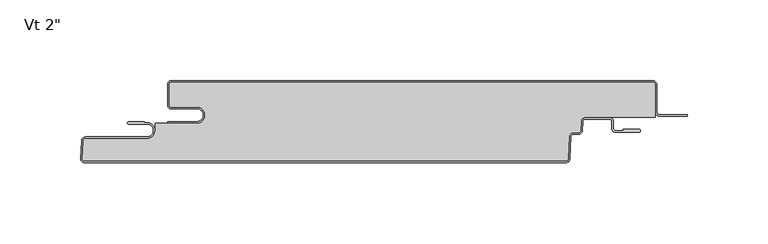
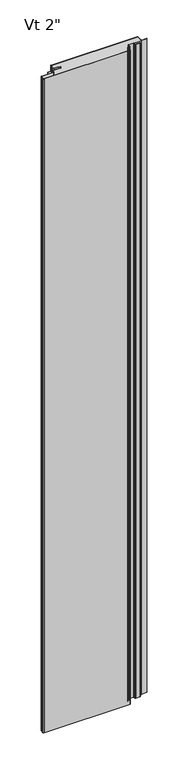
"""IFC4 building model written with IfcOpenShell, lengths in millimetres: plate geometry."""

import ifcopenshell
import ifcopenshell.guid

model = None  # the IFC model being written
_history = None  # IfcOwnerHistory: only IFC2X3 demands one
_inside = {}  # id of a spatial element -> (the spatial element, [elements in it])
_under = {}  # id of a project, library or spatial element -> (it, [spatial elements below it])
_declared = {}  # id of a project -> (the project, [libraries it declares])
_typed = {}  # id of a type object -> (the type object, [elements of that type])
_made_of = {}  # id of a material, layer set ... -> (it, [elements and type objects made of it])


def new_model(schema):
    """Start an empty IFC model of exactly this schema.

    Asked for "IFC4X3", IfcOpenShell would pick the latest addendum, in which some entities
    have other attributes; the version numbers below select the first issue.
    IFC2X3 requires an IfcOwnerHistory on every rooted entity: one is made here for all.
    """
    global model, _history
    if schema == "IFC4X3":
        model = ifcopenshell.file(schema_version=(4, 3, 0, 0))
    else:
        model = ifcopenshell.file(schema=schema)
    _inside.clear()
    _under.clear()
    _declared.clear()
    _typed.clear()
    _made_of.clear()
    _history = None
    if model.schema == "IFC2X3":
        org = make("IfcOrganization", Name="unknown")
        user = make(
            "IfcPersonAndOrganization",
            ThePerson=make("IfcPerson", FamilyName="unknown"),
            TheOrganization=org,
        )
        app = make(
            "IfcApplication",
            ApplicationDeveloper=org,
            Version="unknown",
            ApplicationFullName="unknown",
            ApplicationIdentifier="unknown",
        )
        _history = make(
            "IfcOwnerHistory",
            OwningUser=user,
            OwningApplication=app,
            ChangeAction="ADDED",
            CreationDate=0,
        )
    return model


def make(cls, **values):
    """One entity of the class cls with the attributes given. An attribute that is None is left unset."""
    return model.create_entity(
        cls, **{name: value for name, value in values.items() if value is not None}
    )


def rooted(cls, **values):
    """An entity with a GlobalId (a new one), such as an element, a storey or a relation."""
    return make(cls, GlobalId=ifcopenshell.guid.new(), OwnerHistory=_history, **values)


def si_unit(unit_type, name, prefix=None):
    """IfcSIUnit, for example si_unit("LENGTHUNIT", "METRE", prefix="MILLI")."""
    return make("IfcSIUnit", UnitType=unit_type, Prefix=prefix, Name=name)


def assignment(units):
    """IfcUnitAssignment: the units of a project."""
    return None if units is None else make("IfcUnitAssignment", Units=units)


def point(xyz):
    """IfcCartesianPoint."""
    return None if xyz is None else make("IfcCartesianPoint", Coordinates=xyz)


def direction(xyz):
    """IfcDirection."""
    return None if xyz is None else make("IfcDirection", DirectionRatios=xyz)


def frame(location, z_axis=None, x_axis=None):
    """IfcAxis2Placement3D, a coordinate frame: its origin and axes. An axis left out is left unset."""
    return make(
        "IfcAxis2Placement3D",
        Location=point(location),
        Axis=direction(z_axis),
        RefDirection=direction(x_axis),
    )


def frame_2d(location, x_axis=None):
    """IfcAxis2Placement2D, a coordinate frame in the plane: its origin and x axis."""
    return make(
        "IfcAxis2Placement2D", Location=point(location), RefDirection=direction(x_axis)
    )


def origin():
    """The frame at (0, 0, 0) with its axes left unset."""
    return frame((0.0, 0.0, 0.0))


def origin_with_axes():
    """The frame at (0, 0, 0) with the z axis (0, 0, 1) and the x axis (1, 0, 0) written out."""
    return frame((0.0, 0.0, 0.0), z_axis=(0.0, 0.0, 1.0), x_axis=(1.0, 0.0, 0.0))


def place(relative_to, where):
    """IfcLocalPlacement: puts the frame where relative to a parent placement (None: the world)."""
    return make(
        "IfcLocalPlacement", PlacementRelTo=relative_to, RelativePlacement=where
    )


def context(
    kind, dimensions, precision=None, world=None, true_north=None, identifier=None
):
    """IfcGeometricRepresentationContext, for example the 3D "Model" context."""
    return make(
        "IfcGeometricRepresentationContext",
        ContextIdentifier=identifier,
        ContextType=kind,
        CoordinateSpaceDimension=dimensions,
        Precision=precision,
        WorldCoordinateSystem=world,
        TrueNorth=true_north,
    )


def project(units=None, contexts=None):
    """IfcProject with its units and contexts."""
    return rooted(
        "IfcProject",
        Name="project",
        RepresentationContexts=contexts,
        UnitsInContext=assignment(units),
    )


def spatial(cls, under=None, at=None, **own):
    """A site, building, storey or space (cls), placed at a placement, below another one or the project."""
    s = rooted(cls, ObjectPlacement=at, **own)
    if under is not None:
        _under.setdefault(under.id(), (under, []))[1].append(s)
    return s


def polyline(points):
    """IfcPolyline through the points."""
    return make("IfcPolyline", Points=[point(p) for p in points])


def circle_curve(where, radius):
    """IfcCircle in the frame where."""
    return make("IfcCircle", Position=where, Radius=radius)


def ellipse_curve(where, semi_axis1, semi_axis2):
    """IfcEllipse in the frame where."""
    return make(
        "IfcEllipse", Position=where, SemiAxis1=semi_axis1, SemiAxis2=semi_axis2
    )


def trimmed(basis, trim1, trim2, sense, master):
    """IfcTrimmedCurve: the piece of a basis curve between two trims."""
    return make(
        "IfcTrimmedCurve",
        BasisCurve=basis,
        Trim1=trim1,
        Trim2=trim2,
        SenseAgreement=sense,
        MasterRepresentation=master,
    )


def segment(curve, same_sense, transition):
    """IfcCompositeCurveSegment."""
    return make(
        "IfcCompositeCurveSegment",
        Transition=transition,
        SameSense=same_sense,
        ParentCurve=curve,
    )


def composite_curve(segments, self_intersect=None):
    """IfcCompositeCurve: segments joined end to end."""
    return make("IfcCompositeCurve", Segments=segments, SelfIntersect=self_intersect)


def outline(outer, holes=None, kind="AREA"):
    """IfcArbitraryClosedProfileDef: a profile drawn as a closed curve; with holes, ...WithVoids."""
    if holes is None:
        return make("IfcArbitraryClosedProfileDef", ProfileType=kind, OuterCurve=outer)
    return make(
        "IfcArbitraryProfileDefWithVoids",
        ProfileType=kind,
        OuterCurve=outer,
        InnerCurves=holes,
    )


def extrude(swept, where, along, depth):
    """IfcExtrudedAreaSolid: the profile swept, set in the frame where, extruded along a direction by depth."""
    return make(
        "IfcExtrudedAreaSolid",
        SweptArea=swept,
        Position=where,
        ExtrudedDirection=direction(along),
        Depth=depth,
    )


def shape(context_of_items, identifier, shape_type, items):
    """IfcShapeRepresentation: the items that make up one representation, for example the "Body"."""
    return make(
        "IfcShapeRepresentation",
        ContextOfItems=context_of_items,
        RepresentationIdentifier=identifier,
        RepresentationType=shape_type,
        Items=items,
    )


def source(mapping_origin, context_of_items, identifier, shape_type, items):
    """IfcRepresentationMap: a shape defined once, which mapped items show again and again."""
    return make(
        "IfcRepresentationMap",
        MappingOrigin=mapping_origin,
        MappedRepresentation=shape(context_of_items, identifier, shape_type, items),
    )


def transform(
    local_origin,
    x_axis=None,
    y_axis=None,
    z_axis=None,
    scale=None,
    scale2=None,
    scale3=None,
    uniform=True,
):
    """IfcCartesianTransformationOperator3D, or its non-uniform kind. x_axis, y_axis, z_axis: its Axis1, 2, 3."""
    if uniform:
        return make(
            "IfcCartesianTransformationOperator3D",
            Axis1=direction(x_axis),
            Axis2=direction(y_axis),
            LocalOrigin=point(local_origin),
            Scale=scale,
            Axis3=direction(z_axis),
        )
    return make(
        "IfcCartesianTransformationOperator3DnonUniform",
        Axis1=direction(x_axis),
        Axis2=direction(y_axis),
        LocalOrigin=point(local_origin),
        Scale=scale,
        Axis3=direction(z_axis),
        Scale2=scale2,
        Scale3=scale3,
    )


def mapped(mapping_source, mapping_target):
    """IfcMappedItem: shows the shape of a source again, moved by a transform."""
    return make(
        "IfcMappedItem", MappingSource=mapping_source, MappingTarget=mapping_target
    )


def made_of(thing, what):
    """Note that an element or type object is made of a material, layer set ...; save() writes the relation."""
    if what is not None:
        _made_of.setdefault(what.id(), (what, []))[1].append(thing)
    return thing


def element(
    cls,
    number,
    at=None,
    inside=None,
    cuts=None,
    type_object=None,
    material=None,
    context=None,
    identifier="Body",
    shape_type=None,
    held_by="IfcProductDefinitionShape",
    body=None,
    shapes=None,
    **own,
):
    """One element of the class cls, such as IfcWall. Its Tag is "e" and its number.

    at: its placement. inside: the storey or other place that contains it. cuts: it is an
    opening in that element (IfcRelVoidsElement). A single representation is given by context,
    identifier, shape_type and body (its items); several are given by shapes. held_by: the class
    of the entity that holds the representations. save() writes the other relations.
    """
    e = rooted(cls, Tag="e%d" % number, ObjectPlacement=at, **own)
    if body is not None:
        shapes = [shape(context, identifier, shape_type, body)]
    if shapes is not None:
        e.Representation = make(held_by, Representations=shapes)
    if inside is not None:
        _inside.setdefault(inside.id(), (inside, []))[1].append(e)
    if cuts is not None:
        rooted(
            "IfcRelVoidsElement", RelatingBuildingElement=cuts, RelatedOpeningElement=e
        )
    if type_object is not None:
        _typed.setdefault(type_object.id(), (type_object, []))[1].append(e)
    return made_of(e, material)


def aggregate(whole, parts):
    """IfcRelAggregates: a whole, such as a stair, and the parts it consists of."""
    return rooted("IfcRelAggregates", RelatingObject=whole, RelatedObjects=parts)


def save(model, path):
    """Write the relations noted so far, then the file.

    IfcRelAggregates (storeys below a building ...), IfcRelContainedInSpatialStructure (elements
    in a storey), IfcRelDefinesByType, IfcRelAssociatesMaterial and IfcRelDeclares: one each for
    every whole, place, type object, material and project.
    """
    for whole, parts in _under.values():
        aggregate(whole, parts)
    for where, things in _inside.values():
        rooted(
            "IfcRelContainedInSpatialStructure",
            RelatedElements=things,
            RelatingStructure=where,
        )
    for kind, things in _typed.values():
        rooted("IfcRelDefinesByType", RelatedObjects=things, RelatingType=kind)
    for what, things in _made_of.values():
        rooted("IfcRelAssociatesMaterial", RelatedObjects=things, RelatingMaterial=what)
    for by, libraries in _declared.values():
        rooted("IfcRelDeclares", RelatingContext=by, RelatedDefinitions=libraries)
    model.write(path)


def plane_surface(at):
    """IfcPlane: the flat surface through the origin of the frame at, square to its z axis."""
    return make("IfcPlane", Position=at)


def cylinder_surface(at, radius):
    """IfcCylindricalSurface: all points at the distance radius from the z axis of the frame at."""
    return make("IfcCylindricalSurface", Position=at, Radius=radius)


def revolved_surface(curve, axis_point, axis_direction):
    """IfcSurfaceOfRevolution: the curve turned about the line through axis_point along axis_direction."""
    return make(
        "IfcSurfaceOfRevolution",
        SweptCurve=make("IfcArbitraryOpenProfileDef", ProfileType="CURVE", Curve=curve),
        AxisPosition=make("IfcAxis1Placement", Location=point(axis_point), Axis=direction(axis_direction)),
    )


def extruded_surface(curve, direction_of_extrusion, depth):
    """IfcSurfaceOfLinearExtrusion: the curve pushed along a direction by depth."""
    return make(
        "IfcSurfaceOfLinearExtrusion",
        SweptCurve=make("IfcArbitraryOpenProfileDef", ProfileType="CURVE", Curve=curve),
        ExtrudedDirection=direction(direction_of_extrusion),
        Depth=depth,
    )


def advanced_brep(points, edges, surfaces, faces):
    """IfcAdvancedBrep: a solid bounded by faces that lie on surfaces and meet in shared edges.

    An edge is (start, end): straight between two places in points (the first is 0);
    or (start, end, curve); or (start, end, curve, False) where it runs against its curve.
    A face is (place in surfaces, loops), or (place, loops, False) where it looks against
    its surface's normal. A loop lists edges by number (the first is 1), with a minus sign
    where the edge is run from its end to its start. The first loop is the outer one.
    """
    corners = [point(p) for p in points]
    vertices = [make("IfcVertexPoint", VertexGeometry=c) for c in corners]
    made = []
    for start, end, *more in edges:
        made.append(
            make(
                "IfcEdgeCurve",
                EdgeStart=vertices[start],
                EdgeEnd=vertices[end],
                EdgeGeometry=more[0] if more else make("IfcPolyline", Points=[corners[start], corners[end]]),
                SameSense=more[1] if len(more) > 1 else True,
            )
        )
    hull = []
    for where, loops, *sense in faces:
        bounds = []
        for j, loop in enumerate(loops):
            ring = [make("IfcOrientedEdge", EdgeElement=made[abs(k) - 1], Orientation=k > 0) for k in loop]
            bounds.append(
                make(
                    "IfcFaceOuterBound" if j == 0 else "IfcFaceBound",
                    Bound=make("IfcEdgeLoop", EdgeList=ring),
                    Orientation=True,
                )
            )
        hull.append(make("IfcAdvancedFace", Bounds=bounds, FaceSurface=surfaces[where], SameSense=sense[0] if sense else True))
    return make("IfcAdvancedBrep", Outer=make("IfcClosedShell", CfsFaces=hull))


def plate_3a0255f0(model_context):
    return source(origin(), model_context, "Body", "SolidModel", [
        extrude(outline(composite_curve([segment(trimmed(circle_curve(frame_2d((107.3558457, -25.4)), 2.5875), [point((107.3558457, -22.8125))], [point((104.7718918, -25.2645807))], True, "CARTESIAN"), True, "CONTINUOUS"), segment(polyline([(104.7718918, -25.2645807), (104.4698155, -31.028539)]), True, "CONTINUOUS"), segment(trimmed(circle_curve(frame_2d((103.0904585, -30.95625)), 1.38125), [point((104.4698155, -31.028539))], [point((103.0904585, -32.3375))], False, "CARTESIAN"), True, "CONTINUOUS"), segment(polyline([(103.0904585, -32.3375), (100.0323847, -32.3375)]), True, "CONTINUOUS"), segment(trimmed(circle_curve(frame_2d((100.0323847, -34.925)), 2.5875), [point((100.0323847, -32.3375))], [point((97.4484307, -34.7895807))], True, "CARTESIAN"), True, "CONTINUOUS"), segment(polyline([(97.4484307, -34.7895807), (96.7303677, -48.491039)]), True, "CONTINUOUS"), segment(trimmed(circle_curve(frame_2d((95.3510107, -48.41875)), 1.38125), [point((96.7303677, -48.491039))], [point((95.3510107, -49.8))], False, "CARTESIAN"), True, "CONTINUOUS"), segment(polyline([(95.3510107, -49.8), (-203.0781861, -49.8)]), True, "CONTINUOUS"), segment(trimmed(circle_curve(frame_2d((-203.0781861, -48.41875)), 1.38125), [point((-203.0781861, -49.8))], [point((-204.4575431, -48.346461))], False, "CARTESIAN"), True, "CONTINUOUS"), segment(polyline([(-204.4575431, -48.346461), (-203.8751617, -37.233961)]), True, "CONTINUOUS"), segment(trimmed(circle_curve(frame_2d((-202.4958046, -37.30625)), 1.38125), [point((-203.8751617, -37.233961))], [point((-202.4958046, -35.925))], False, "CARTESIAN"), True, "CONTINUOUS"), segment(polyline([(-202.4958046, -35.925), (-164.3125, -35.925)]), True, "CONTINUOUS"), segment(trimmed(circle_curve(frame_2d((-164.3125, -30.95625)), 4.96875), [point((-164.3125, -35.925))], [point((-159.34375, -30.95625))], True, "CARTESIAN"), True, "CONTINUOUS"), segment(polyline([(-159.34375, -30.95625), (-159.34375, -26.4), (-133.35625, -26.4)]), True, "CONTINUOUS"), segment(trimmed(circle_curve(frame_2d((-133.35625, -21.43125)), 4.96875), [point((-133.35625, -26.4))], [point((-133.35625, -16.4625))], True, "CARTESIAN"), True, "CONTINUOUS"), segment(polyline([(-133.35625, -16.4625), (-149.23125, -16.4625)]), True, "CONTINUOUS"), segment(trimmed(circle_curve(frame_2d((-149.23125, -15.08125)), 1.38125), [point((-149.23125, -16.4625))], [point((-150.6125, -15.08125))], False, "CARTESIAN"), True, "CONTINUOUS"), segment(polyline([(-150.6125, -15.08125), (-150.6125, -2.38125)]), True, "CONTINUOUS"), segment(trimmed(circle_curve(frame_2d((-149.23125, -2.38125)), 1.38125), [point((-150.6125, -2.38125))], [point((-149.23125, -1.0))], False, "CARTESIAN"), True, "CONTINUOUS"), segment(polyline([(-149.23125, -1.0), (149.21875, -1.0)]), True, "CONTINUOUS"), segment(trimmed(circle_curve(frame_2d((149.21875, -2.38125)), 1.38125), [point((149.21875, -1.0))], [point((150.6, -2.38125))], False, "CARTESIAN"), True, "CONTINUOUS"), segment(polyline([(150.6, -2.38125), (150.6, -22.8125), (107.3558457, -22.8125)]), True, "CONTINUOUS")], self_intersect=False)), origin_with_axes(), (0.0, 0.0, 1.0), 2400.0),
        extrude(outline(composite_curve([segment(polyline([(-151.6125, -25.4), (-133.35625, -25.4)]), True, "CONTINUOUS"), segment(trimmed(circle_curve(frame_2d((-133.35625, -21.43125)), 3.96875), [point((-133.35625, -25.4))], [point((-133.35625, -17.4625))], True, "CARTESIAN"), True, "CONTINUOUS"), segment(polyline([(-133.35625, -17.4625), (-149.23125, -17.4625)]), True, "CONTINUOUS"), segment(trimmed(circle_curve(frame_2d((-149.23125, -15.08125)), 2.38125), [point((-149.23125, -17.4625))], [point((-151.6125, -15.08125))], False, "CARTESIAN"), True, "CONTINUOUS"), segment(polyline([(-151.6125, -15.08125), (-151.6125, -2.38125)]), True, "CONTINUOUS"), segment(trimmed(circle_curve(frame_2d((-149.23125, -2.38125)), 2.38125), [point((-151.6125, -2.38125))], [point((-149.23125, 0.0))], False, "CARTESIAN"), True, "CONTINUOUS"), segment(polyline([(-149.23125, 0.0), (149.21875, 0.0)]), True, "CONTINUOUS"), segment(trimmed(circle_curve(frame_2d((149.21875, -2.38125)), 2.38125), [point((149.21875, 0.0))], [point((151.6, -2.38125))], False, "CARTESIAN"), True, "CONTINUOUS"), segment(polyline([(151.6, -2.38125), (151.6, -19.446875)]), True, "CONTINUOUS"), segment(trimmed(circle_curve(frame_2d((153.1875, -19.446875)), 1.5875), [point((151.6, -19.446875))], [point((153.1875, -21.034375))], True, "CARTESIAN"), True, "CONTINUOUS"), segment(polyline([(153.1875, -21.034375), (170.65, -21.034375), (170.65, -22.034375), (153.1875, -22.034375)]), True, "CONTINUOUS"), segment(trimmed(circle_curve(frame_2d((153.1875, -19.446875)), 2.5875), [point((153.1875, -22.034375))], [point((150.6, -19.446875))], False, "CARTESIAN"), True, "CONTINUOUS"), segment(polyline([(150.6, -19.446875), (150.6, -2.38125)]), True, "CONTINUOUS"), segment(trimmed(circle_curve(frame_2d((149.21875, -2.38125)), 1.38125), [point((150.6, -2.38125))], [point((149.21875, -1.0))], True, "CARTESIAN"), True, "CONTINUOUS"), segment(polyline([(149.21875, -1.0), (-149.23125, -1.0)]), True, "CONTINUOUS"), segment(trimmed(circle_curve(frame_2d((-149.23125, -2.38125)), 1.38125), [point((-149.23125, -1.0))], [point((-150.6125, -2.38125))], True, "CARTESIAN"), True, "CONTINUOUS"), segment(polyline([(-150.6125, -2.38125), (-150.6125, -15.08125)]), True, "CONTINUOUS"), segment(trimmed(circle_curve(frame_2d((-149.23125, -15.08125)), 1.38125), [point((-150.6125, -15.08125))], [point((-149.23125, -16.4625))], True, "CARTESIAN"), True, "CONTINUOUS"), segment(polyline([(-149.23125, -16.4625), (-133.35625, -16.4625)]), True, "CONTINUOUS"), segment(trimmed(circle_curve(frame_2d((-133.35625, -21.43125)), 4.96875), [point((-133.35625, -16.4625))], [point((-133.35625, -26.4))], False, "CARTESIAN"), True, "CONTINUOUS"), segment(polyline([(-133.35625, -26.4), (-151.6125, -26.4), (-151.6125, -25.4)]), True, "CONTINUOUS")], self_intersect=False)), origin_with_axes(), (0.0, 0.0, 1.0), 2400.0),
        advanced_brep(
        [(-175.6377049, -25.4, 2400.0), (-175.6377049, -26.9875, 2400.0), (-164.3267674, -26.9875, 2400.0), (-164.3267674, -34.925, 2400.0), (-202.5100721, -34.925, 2400.0), (-204.8880586, -37.181625, 2400.0), (-205.4704401, -48.294125, 2400.0), (-203.0924535, -50.8, 2400.0), (95.3510107, -50.8, 2400.0), (97.7289973, -48.543375, 2400.0), (98.4470603, -34.8419167, 2400.0), (100.0323847, -33.3375, 2400.0), (103.0761911, -33.3375, 2400.0), (105.4541776, -31.080875, 2400.0), (105.7562539, -25.3169167, 2400.0), (107.3415783, -23.8125, 2400.0), (122.2169826, -23.8125, 2400.0), (123.8044826, -25.4, 2400.0), (123.8044826, -29.5671875, 2400.0), (126.1857326, -31.9484375, 2400.0), (140.6773532, -31.9484375, 2400.0), (140.6773532, -30.1546875, 2400.0), (130.9482326, -30.1546875, 2400.0), (130.9482326, -30.9484375, 2400.0), (126.1857326, -30.9484375, 2400.0), (124.8044826, -29.5671875, 2400.0), (124.8044826, -25.4, 2400.0), (122.2169826, -22.8125, 2400.0), (107.3415783, -22.8125, 2400.0), (104.7576244, -25.2645807, 2400.0), (104.4555481, -31.028539, 2400.0), (103.0761911, -32.3375, 2400.0), (100.0323847, -32.3375, 2400.0), (97.4484307, -34.7895807, 2400.0), (96.7303677, -48.491039, 2400.0), (95.3510107, -49.8, 2400.0), (-203.0924535, -49.8, 2400.0), (-204.4718106, -48.346461, 2400.0), (-203.8894291, -37.233961, 2400.0), (-202.5100721, -35.925, 2400.0), (-164.3267674, -35.925, 2400.0), (-164.3267674, -25.9875, 2400.0), (-165.9142674, -26.19375, 2400.0), (-165.9142674, -25.4, 2400.0), (-175.6377049, -25.4, 0.0), (-165.9142674, -25.4, 0.0), (-165.9142674, -26.19375, 0.0), (-164.3267674, -25.9875, 0.0), (-164.3267674, -35.925, 0.0), (-202.5100721, -35.925, 0.0), (-203.8894291, -37.233961, 0.0), (-204.4718106, -48.346461, 0.0), (-203.0924535, -49.8, 0.0), (95.3510107, -49.8, 0.0), (96.7303677, -48.491039, 0.0), (97.4484307, -34.7895807, 0.0), (100.0323847, -32.3375, 0.0), (103.0761911, -32.3375, 0.0), (104.4555481, -31.028539, 0.0), (104.7576244, -25.2645807, 0.0), (107.3415783, -22.8125, 0.0), (122.2169826, -22.8125, 0.0), (124.8044826, -25.4, 0.0), (124.8044826, -29.5671875, 0.0), (126.1857326, -30.9484375, 0.0), (130.9482326, -30.9484375, 0.0), (130.9482326, -30.1546875, 0.0), (140.6773532, -30.1546875, 0.0), (140.6773532, -31.9484375, 0.0), (126.1857326, -31.9484375, 0.0), (123.8044826, -29.5671875, 0.0), (123.8044826, -25.4, 0.0), (122.2169826, -23.8125, 0.0), (107.3415783, -23.8125, 0.0), (105.7562539, -25.3169167, 0.0), (105.4541776, -31.080875, 0.0), (103.0761911, -33.3375, 0.0), (100.0323847, -33.3375, 0.0), (98.4470603, -34.8419167, 0.0), (97.7289973, -48.543375, 0.0), (95.3510107, -50.8, 0.0), (-203.0924535, -50.8, 0.0), (-205.4704401, -48.294125, 0.0), (-204.8880586, -37.181625, 0.0), (-202.5100721, -34.925, 0.0), (-164.3267674, -34.925, 0.0), (-164.3267674, -26.9875, 0.0), (-175.6377049, -26.9875, 0.0)],
        [
            (0, 1, circle_curve(frame((-175.6377049, -26.19375, 2400.0), z_axis=(0.0, 0.0, 1.0), x_axis=(-1.0, 0.0, 0.0)), 0.79375)),
            (1, 2),
            (2, 3, circle_curve(frame((-164.3267674, -30.95625, 2400.0), z_axis=(0.0, 0.0, -1.0), x_axis=(-1.0, 0.0, 0.0)), 3.96875)),
            (3, 4),
            (4, 5, circle_curve(frame((-202.5100721, -37.30625, 2400.0), z_axis=(0.0, 0.0, 1.0), x_axis=(-1.0, 0.0, 0.0)), 2.38125)),
            (5, 6),
            (6, 7, circle_curve(frame((-203.0924535, -48.41875, 2400.0), z_axis=(0.0, 0.0, 1.0), x_axis=(-1.0, 0.0, 0.0)), 2.38125)),
            (7, 8),
            (8, 9, circle_curve(frame((95.3510107, -48.41875, 2400.0), z_axis=(0.0, 0.0, 1.0), x_axis=(-1.0, 0.0, 0.0)), 2.38125)),
            (9, 10),
            (10, 11, circle_curve(frame((100.0323847, -34.925, 2400.0), z_axis=(0.0, 0.0, -1.0), x_axis=(-1.0, 0.0, 0.0)), 1.5875)),
            (11, 12),
            (12, 13, circle_curve(frame((103.0761911, -30.95625, 2400.0), z_axis=(0.0, 0.0, 1.0), x_axis=(-1.0, 0.0, 0.0)), 2.38125)),
            (13, 14),
            (14, 15, circle_curve(frame((107.3415783, -25.4, 2400.0), z_axis=(0.0, 0.0, -1.0), x_axis=(-1.0, 0.0, 0.0)), 1.5875)),
            (15, 16),
            (16, 17, circle_curve(frame((122.2169826, -25.4, 2400.0), z_axis=(0.0, 0.0, -1.0), x_axis=(-1.0, 0.0, 0.0)), 1.5875)),
            (17, 18),
            (18, 19, circle_curve(frame((126.1857326, -29.5671875, 2400.0), z_axis=(0.0, 0.0, 1.0), x_axis=(-1.0, 0.0, 0.0)), 2.38125)),
            (19, 20),
            (20, 21, ellipse_curve(frame((140.6773532, -31.0515625, 2400.0), z_axis=(0.0, 0.0, 1.0), x_axis=(0.0, 1.0, 0.0)), 0.896875, 0.7852275)),
            (21, 22),
            (22, 23),
            (23, 24),
            (24, 25, circle_curve(frame((126.1857326, -29.5671875, 2400.0), z_axis=(0.0, 0.0, -1.0), x_axis=(-1.0, 0.0, 0.0)), 1.38125)),
            (25, 26),
            (26, 27, circle_curve(frame((122.2169826, -25.4, 2400.0), z_axis=(0.0, 0.0, 1.0), x_axis=(-1.0, 0.0, 0.0)), 2.5875)),
            (27, 28),
            (28, 29, circle_curve(frame((107.3415783, -25.4, 2400.0), z_axis=(0.0, 0.0, 1.0), x_axis=(-1.0, 0.0, 0.0)), 2.5875)),
            (29, 30),
            (30, 31, circle_curve(frame((103.0761911, -30.95625, 2400.0), z_axis=(0.0, 0.0, -1.0), x_axis=(-1.0, 0.0, 0.0)), 1.38125)),
            (31, 32),
            (32, 33, circle_curve(frame((100.0323847, -34.925, 2400.0), z_axis=(0.0, 0.0, 1.0), x_axis=(-1.0, 0.0, 0.0)), 2.5875)),
            (33, 34),
            (34, 35, circle_curve(frame((95.3510107, -48.41875, 2400.0), z_axis=(0.0, 0.0, -1.0), x_axis=(-1.0, 0.0, 0.0)), 1.38125)),
            (35, 36),
            (36, 37, circle_curve(frame((-203.0924535, -48.41875, 2400.0), z_axis=(0.0, 0.0, -1.0), x_axis=(-1.0, 0.0, 0.0)), 1.38125)),
            (37, 38),
            (38, 39, circle_curve(frame((-202.5100721, -37.30625, 2400.0), z_axis=(0.0, 0.0, -1.0), x_axis=(-1.0, 0.0, 0.0)), 1.38125)),
            (39, 40),
            (40, 41, circle_curve(frame((-164.3267674, -30.95625, 2400.0), z_axis=(0.0, 0.0, 1.0), x_axis=(-1.0, 0.0, 0.0)), 4.96875)),
            (41, 42),
            (42, 43),
            (43, 0),
            (44, 45),
            (45, 46),
            (46, 47),
            (47, 48, circle_curve(frame((-164.3267674, -30.95625, 0.0), z_axis=(0.0, 0.0, -1.0), x_axis=(-1.0, 0.0, 0.0)), 4.96875)),
            (48, 49),
            (49, 50, circle_curve(frame((-202.5100721, -37.30625, 0.0), z_axis=(0.0, 0.0, 1.0), x_axis=(-1.0, 0.0, 0.0)), 1.38125)),
            (50, 51),
            (51, 52, circle_curve(frame((-203.0924535, -48.41875, 0.0), z_axis=(0.0, 0.0, 1.0), x_axis=(-1.0, 0.0, 0.0)), 1.38125)),
            (52, 53),
            (53, 54, circle_curve(frame((95.3510107, -48.41875, 0.0), z_axis=(0.0, 0.0, 1.0), x_axis=(-1.0, 0.0, 0.0)), 1.38125)),
            (54, 55),
            (55, 56, circle_curve(frame((100.0323847, -34.925, 0.0), z_axis=(0.0, 0.0, -1.0), x_axis=(-1.0, 0.0, 0.0)), 2.5875)),
            (56, 57),
            (57, 58, circle_curve(frame((103.0761911, -30.95625, 0.0), z_axis=(0.0, 0.0, 1.0), x_axis=(-1.0, 0.0, 0.0)), 1.38125)),
            (58, 59),
            (59, 60, circle_curve(frame((107.3415783, -25.4, 0.0), z_axis=(0.0, 0.0, -1.0), x_axis=(-1.0, 0.0, 0.0)), 2.5875)),
            (60, 61),
            (61, 62, circle_curve(frame((122.2169826, -25.4, 0.0), z_axis=(0.0, 0.0, -1.0), x_axis=(-1.0, 0.0, 0.0)), 2.5875)),
            (62, 63),
            (63, 64, circle_curve(frame((126.1857326, -29.5671875, 0.0), z_axis=(0.0, 0.0, 1.0), x_axis=(-1.0, 0.0, 0.0)), 1.38125)),
            (64, 65),
            (65, 66),
            (66, 67),
            (67, 68, ellipse_curve(frame((140.6773532, -31.0515625, 0.0), z_axis=(0.0, 0.0, -1.0), x_axis=(0.0, 1.0, 0.0)), 0.896875, 0.7852275)),
            (68, 69),
            (69, 70, circle_curve(frame((126.1857326, -29.5671875, 0.0), z_axis=(0.0, 0.0, -1.0), x_axis=(-1.0, 0.0, 0.0)), 2.38125)),
            (70, 71),
            (71, 72, circle_curve(frame((122.2169826, -25.4, 0.0), z_axis=(0.0, 0.0, 1.0), x_axis=(-1.0, 0.0, 0.0)), 1.5875)),
            (72, 73),
            (73, 74, circle_curve(frame((107.3415783, -25.4, 0.0), z_axis=(0.0, 0.0, 1.0), x_axis=(-1.0, 0.0, 0.0)), 1.5875)),
            (74, 75),
            (75, 76, circle_curve(frame((103.0761911, -30.95625, 0.0), z_axis=(0.0, 0.0, -1.0), x_axis=(-1.0, 0.0, 0.0)), 2.38125)),
            (76, 77),
            (77, 78, circle_curve(frame((100.0323847, -34.925, 0.0), z_axis=(0.0, 0.0, 1.0), x_axis=(-1.0, 0.0, 0.0)), 1.5875)),
            (78, 79),
            (79, 80, circle_curve(frame((95.3510107, -48.41875, 0.0), z_axis=(0.0, 0.0, -1.0), x_axis=(-1.0, 0.0, 0.0)), 2.38125)),
            (80, 81),
            (81, 82, circle_curve(frame((-203.0924535, -48.41875, 0.0), z_axis=(0.0, 0.0, -1.0), x_axis=(-1.0, 0.0, 0.0)), 2.38125)),
            (82, 83),
            (83, 84, circle_curve(frame((-202.5100721, -37.30625, 0.0), z_axis=(0.0, 0.0, -1.0), x_axis=(-1.0, 0.0, 0.0)), 2.38125)),
            (84, 85),
            (85, 86, circle_curve(frame((-164.3267674, -30.95625, 0.0), z_axis=(0.0, 0.0, 1.0), x_axis=(-1.0, 0.0, 0.0)), 3.96875)),
            (86, 87),
            (87, 44, circle_curve(frame((-175.6377049, -26.19375, 0.0), z_axis=(0.0, 0.0, -1.0), x_axis=(-1.0, 0.0, 0.0)), 0.79375)),
            (43, 45),
            (44, 0),
            (87, 1),
            (86, 2),
            (85, 3),
            (84, 4),
            (83, 5),
            (82, 6),
            (81, 7),
            (80, 8),
            (79, 9),
            (78, 10),
            (77, 11),
            (76, 12),
            (75, 13),
            (74, 14),
            (73, 15),
            (38, 50),
            (49, 39),
            (37, 51),
            (36, 52),
            (35, 53),
            (34, 54),
            (33, 55),
            (32, 56),
            (31, 57),
            (30, 58),
            (29, 59),
            (28, 60),
            (23, 65),
            (64, 24),
            (63, 25),
            (62, 26),
            (72, 16),
            (71, 17),
            (70, 18),
            (69, 19),
            (68, 20),
            (27, 61),
            (48, 40),
            (47, 41),
            (42, 46),
            (22, 66),
            (21, 67),
        ],
        [
            plane_surface(frame((-0.00625, -50.8, 2400.0), z_axis=(0.0, 0.0, 1.0), x_axis=(0.0, -1.0, 0.0))),
            plane_surface(frame((-0.00625, -50.8, 0.0), z_axis=(0.0, 0.0, -1.0), x_axis=(0.0, -1.0, 0.0))),
            plane_surface(frame((-175.6377049, -25.4, 2400.0), z_axis=(0.0, 1.0, 0.0), x_axis=(0.0, 0.0, -1.0))),
            cylinder_surface(frame((-175.6377049, -26.19375, 2400.0), z_axis=(0.0, 0.0, 1.0), x_axis=(-1.0, 0.0, 0.0)), 0.79375),
            plane_surface(frame((-164.3267674, -26.9875, 2400.0), z_axis=(0.0, -1.0, 0.0), x_axis=(0.0, 0.0, -1.0))),
            revolved_surface(polyline([(-168.2955174, -30.95625, 0.0), (-168.2955174, -30.95625, 2400.0)]), (-164.3267674, -30.95625, 2400.0), (0.0, 0.0, -1.0)),
            plane_surface(frame((-202.5100721, -34.925, 2400.0), z_axis=(0.0, 1.0, 0.0), x_axis=(0.0, 0.0, -1.0))),
            cylinder_surface(frame((-202.5100721, -37.30625, 2400.0), z_axis=(0.0, 0.0, 1.0), x_axis=(-1.0, 0.0, 0.0)), 2.38125),
            plane_surface(frame((-205.4704401, -48.294125, 2400.0), z_axis=(-0.9986295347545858, 0.052335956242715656, 0.0), x_axis=(0.0, 0.0, -1.0))),
            cylinder_surface(frame((-203.0924535, -48.41875, 2400.0), z_axis=(0.0, 0.0, 1.0), x_axis=(-1.0, 0.0, 0.0)), 2.38125),
            plane_surface(frame((95.3510107, -50.8, 2400.0), z_axis=(0.0, -1.0, 0.0), x_axis=(0.0, 0.0, -1.0))),
            cylinder_surface(frame((95.3510107, -48.41875, 2400.0), z_axis=(0.0, 0.0, 1.0), x_axis=(-1.0, 0.0, 0.0)), 2.38125),
            plane_surface(frame((98.4470603, -34.8419167, 2400.0), z_axis=(0.9986295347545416, -0.05233595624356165, 0.0), x_axis=(0.0, 0.0, -1.0))),
            revolved_surface(polyline([(98.44488469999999, -34.925, 0.0), (98.44488469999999, -34.925, 2400.0)]), (100.0323847, -34.925, 2400.0), (0.0, 0.0, -1.0)),
            plane_surface(frame((103.0761911, -33.3375, 2400.0), z_axis=(0.0, -1.0, 0.0), x_axis=(0.0, 0.0, -1.0))),
            cylinder_surface(frame((103.0761911, -30.95625, 2400.0), z_axis=(0.0, 0.0, 1.0), x_axis=(-1.0, 0.0, 0.0)), 2.38125),
            plane_surface(frame((105.7562539, -25.3169167, 2400.0), z_axis=(0.9986295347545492, -0.052335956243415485, 0.0), x_axis=(0.0, 0.0, -1.0))),
            revolved_surface(polyline([(105.75407829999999, -25.4, 0.0), (105.75407829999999, -25.4, 2400.0)]), (107.3415783, -25.4, 2400.0), (0.0, 0.0, -1.0)),
            revolved_surface(polyline([(-203.8913221, -37.30625, 0.0), (-203.8913221, -37.30625, 2400.0)]), (-202.5100721, -37.30625, 2400.0), (0.0, 0.0, -1.0)),
            plane_surface(frame((-203.8894291, -37.233961, 2400.0), z_axis=(0.9986295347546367, -0.05233595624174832, 0.0), x_axis=(0.0, 0.0, -1.0))),
            revolved_surface(polyline([(-204.4737035, -48.41875, 0.0), (-204.4737035, -48.41875, 2400.0)]), (-203.0924535, -48.41875, 2400.0), (0.0, 0.0, -1.0)),
            plane_surface(frame((-203.0924535, -49.8, 2400.0), z_axis=(0.0, 1.0, 0.0), x_axis=(0.0, 0.0, -1.0))),
            revolved_surface(polyline([(93.96976070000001, -48.41875, 0.0), (93.96976070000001, -48.41875, 2400.0)]), (95.3510107, -48.41875, 2400.0), (0.0, 0.0, -1.0)),
            plane_surface(frame((96.7303677, -48.491039, 2400.0), z_axis=(-0.9986295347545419, 0.05233595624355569, 0.0), x_axis=(0.0, 0.0, -1.0))),
            cylinder_surface(frame((100.0323847, -34.925, 2400.0), z_axis=(0.0, 0.0, 1.0), x_axis=(-1.0, 0.0, 0.0)), 2.5875),
            plane_surface(frame((100.0323847, -32.3375, 2400.0), z_axis=(0.0, 1.0, 0.0), x_axis=(0.0, 0.0, -1.0))),
            revolved_surface(polyline([(101.69494110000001, -30.95625, 0.0), (101.69494110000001, -30.95625, 2400.0)]), (103.0761911, -30.95625, 2400.0), (0.0, 0.0, -1.0)),
            plane_surface(frame((104.4555481, -31.028539, 2400.0), z_axis=(-0.9986295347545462, 0.05233595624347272, 0.0), x_axis=(0.0, 0.0, -1.0))),
            cylinder_surface(frame((107.3415783, -25.4, 2400.0), z_axis=(0.0, 0.0, 1.0), x_axis=(-1.0, 0.0, 0.0)), 2.5875),
            plane_surface(frame((126.1857326, -30.9484375, 2400.0), z_axis=(0.0, 1.0, 0.0), x_axis=(0.0, 0.0, -1.0))),
            revolved_surface(polyline([(124.8044826, -29.5671875, 0.0), (124.8044826, -29.5671875, 2400.0)]), (126.1857326, -29.5671875, 2400.0), (0.0, 0.0, -1.0)),
            plane_surface(frame((124.8044826, -25.4, 2400.0), z_axis=(1.0, 0.0, 0.0), x_axis=(0.0, 0.0, -1.0))),
            plane_surface(frame((122.2169826, -23.8125, 2400.0), z_axis=(0.0, -1.0, 0.0), x_axis=(0.0, 0.0, -1.0))),
            revolved_surface(polyline([(120.62948259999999, -25.4, 0.0), (120.62948259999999, -25.4, 2400.0)]), (122.2169826, -25.4, 2400.0), (0.0, 0.0, -1.0)),
            plane_surface(frame((123.8044826, -29.5671875, 2400.0), z_axis=(-1.0, 0.0, 0.0), x_axis=(0.0, 0.0, -1.0))),
            cylinder_surface(frame((126.1857326, -29.5671875, 2400.0), z_axis=(0.0, 0.0, 1.0), x_axis=(-1.0, 0.0, 0.0)), 2.38125),
            plane_surface(frame((140.6773532, -31.9484375, 2400.0), z_axis=(0.0, -1.0, 0.0), x_axis=(0.0, 0.0, -1.0))),
            plane_surface(frame((107.3415783, -22.8125, 2400.0), z_axis=(0.0, 1.0, 0.0), x_axis=(0.0, 0.0, -1.0))),
            cylinder_surface(frame((122.2169826, -25.4, 2400.0), z_axis=(0.0, 0.0, 1.0), x_axis=(-1.0, 0.0, 0.0)), 2.5875),
            plane_surface(frame((-164.3267674, -35.925, 2400.0), z_axis=(0.0, -1.0, 0.0), x_axis=(0.0, 0.0, -1.0))),
            cylinder_surface(frame((-164.3267674, -30.95625, 2400.0), z_axis=(0.0, 0.0, 1.0), x_axis=(-1.0, 0.0, 0.0)), 4.96875),
            plane_surface(frame((-165.9142674, -25.4, 2400.0), z_axis=(1.0, 0.0, 0.0), x_axis=(0.0, 0.0, -1.0))),
            plane_surface(frame((-165.9142674, -26.19375, 2400.0), z_axis=(-0.12883844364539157, 0.9916655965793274, 0.0), x_axis=(0.0, 0.0, -1.0))),
            plane_surface(frame((130.9482326, -30.9484375, 2400.0), z_axis=(-1.0, 0.0, 0.0), x_axis=(0.0, 0.0, -1.0))),
            plane_surface(frame((130.9482326, -30.1546875, 2400.0), z_axis=(0.0, 1.0, 0.0), x_axis=(0.0, 0.0, -1.0))),
            extruded_surface(trimmed(ellipse_curve(frame((140.6773532, -31.0515625, 2400.0), z_axis=(0.0, 0.0, -1.0), x_axis=(0.0, 1.0, 0.0)), 0.896875, 0.7852275), [point((140.6773532, -30.1546875, 2400.0))], [point((140.6773532, -31.9484375, 2400.0))], True, "CARTESIAN"), (0.0, 0.0, -2400.0), 2400.0),
        ],
        [
            (0, [[1, 2, 3, 4, 5, 6, 7, 8, 9, 10, 11, 12, 13, 14, 15, 16, 17, 18, 19, 20, 21, 22, 23, 24, 25, 26, 27, 28, 29, 30, 31, 32, 33, 34, 35, 36, 37, 38, 39, 40, 41, 42, 43, 44]]),
            (1, [[45, 46, 47, 48, 49, 50, 51, 52, 53, 54, 55, 56, 57, 58, 59, 60, 61, 62, 63, 64, 65, 66, 67, 68, 69, 70, 71, 72, 73, 74, 75, 76, 77, 78, 79, 80, 81, 82, 83, 84, 85, 86, 87, 88]]),
            (2, [[89, -45, 90, -44]]),
            (3, [[-90, -88, 91, -1]]),
            (4, [[-91, -87, 92, -2]]),
            (5, [[-92, -86, 93, -3]]),
            (6, [[-93, -85, 94, -4]]),
            (7, [[-94, -84, 95, -5]]),
            (8, [[-95, -83, 96, -6]]),
            (9, [[-96, -82, 97, -7]]),
            (10, [[-97, -81, 98, -8]]),
            (11, [[-98, -80, 99, -9]]),
            (12, [[-99, -79, 100, -10]]),
            (13, [[-100, -78, 101, -11]]),
            (14, [[-101, -77, 102, -12]]),
            (15, [[-102, -76, 103, -13]]),
            (16, [[-103, -75, 104, -14]]),
            (17, [[-104, -74, 105, -15]]),
            (18, [[106, -50, 107, -39]]),
            (19, [[108, -51, -106, -38]]),
            (20, [[109, -52, -108, -37]]),
            (21, [[110, -53, -109, -36]]),
            (22, [[111, -54, -110, -35]]),
            (23, [[112, -55, -111, -34]]),
            (24, [[113, -56, -112, -33]]),
            (25, [[114, -57, -113, -32]]),
            (26, [[115, -58, -114, -31]]),
            (27, [[116, -59, -115, -30]]),
            (28, [[117, -60, -116, -29]]),
            (29, [[118, -65, 119, -24]]),
            (30, [[-119, -64, 120, -25]]),
            (31, [[-120, -63, 121, -26]]),
            (32, [[-105, -73, 122, -16]]),
            (33, [[-122, -72, 123, -17]]),
            (34, [[-123, -71, 124, -18]]),
            (35, [[-124, -70, 125, -19]]),
            (36, [[-125, -69, 126, -20]]),
            (37, [[127, -61, -117, -28]]),
            (38, [[-121, -62, -127, -27]]),
            (39, [[-107, -49, 128, -40]]),
            (40, [[-128, -48, 129, -41]]),
            (41, [[130, -46, -89, -43]]),
            (42, [[-129, -47, -130, -42]]),
            (43, [[131, -66, -118, -23]]),
            (44, [[132, -67, -131, -22]]),
            (45, [[-126, -68, -132, -21]]),
        ],
    ),
    ])


if __name__ == "__main__":
    model = new_model("IFC4")
    model_context = context("Model", 3, world=origin())
    ifc_project = project(units=[si_unit("LENGTHUNIT", "METRE", prefix="MILLI")], contexts=[model_context])
    site = spatial("IfcSite", under=ifc_project)
    building = spatial("IfcBuilding", under=site)
    placement = place(None, origin())
    plate_shape = plate_3a0255f0(model_context)
    element("IfcPlate", 1, ObjectType="KIP-12-DWTR-R19-CP-Vt-F : Vt 2\"", at=placement, inside=building, context=model_context, shape_type="MappedRepresentation", body=[
        mapped(plate_shape, transform((0.0, 0.0, 0.0), x_axis=(1.0, 0.0, 0.0), y_axis=(0.0, 1.0, 0.0), z_axis=(0.0, 0.0, 1.0))),
    ])
    save(model, "model.ifc")
